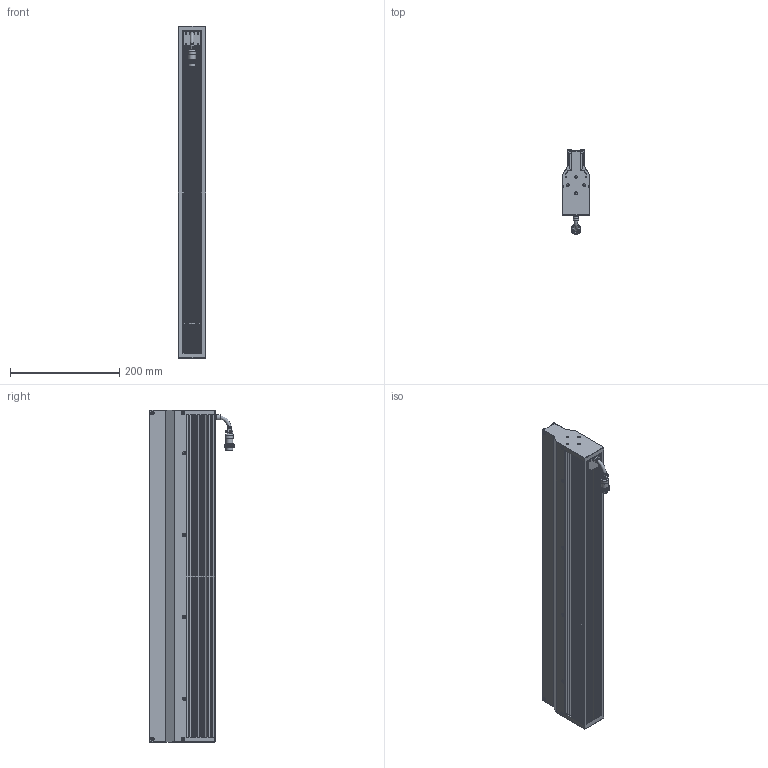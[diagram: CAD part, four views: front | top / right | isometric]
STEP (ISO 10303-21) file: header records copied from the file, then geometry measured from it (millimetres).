
FILE_DESCRIPTION (( 'STEP AP203' ), '1' );
FILE_NAME ('OPT-LSNL608-W-V1.1U尨砩芞.STEP', '2025-02-18T03:05:04', ( '' ), ( '' ), 'SwSTEP 2.0', 'SolidWorks 2016', '' );
FILE_SCHEMA (( 'CONFIG_CONTROL_DESIGN' ));
Length unit declared in the file: millimetre
Products named in the file (1): OPT-LSNL608-W-V1.1U尨砩芞
Bounding box: 50.01 x 155.15 x 608 mm (x, y, z)
Volume: 2210434.5 mm3; surface area: 758526.4 mm2
Topology: 6 solids, 11 shells, 3619 faces, 8248 edges, 4661 vertices
Faces by surface type: bspline 2059, cylinder 761, plane 752, cone 39, torus 8
Full cylindrical faces by diameter (mm): 0.95 x6, 1.1 x2, 1.4 x2, 2 x4, 2.5 x10, 3 x12, 3.4 x16, 3.5 x4, 5 x8, 6.4 x3, 7.5 x1, 8.6 x1, 9.3 x1, 9.8 x1, 10 x1, 13.2 x1, 14 x1, 16.1 x1
Entity records: 126616 total; most frequent: CARTESIAN_POINT 64918, ORIENTED_EDGE 16118, EDGE_CURVE 8059, DIRECTION 6015, B_SPLINE_CURVE_WITH_KNOTS 5589, VERTEX_POINT 4598, EDGE_LOOP 3815, FACE_OUTER_BOUND 3702
